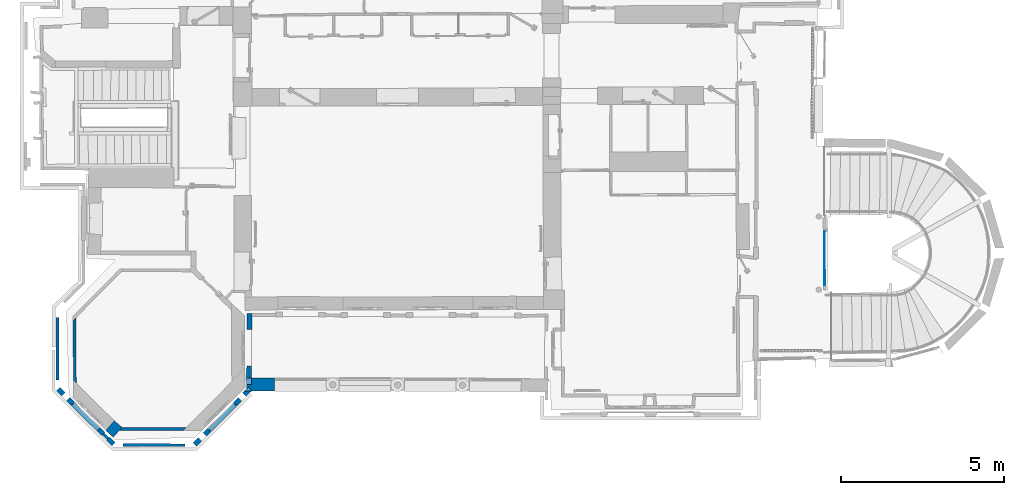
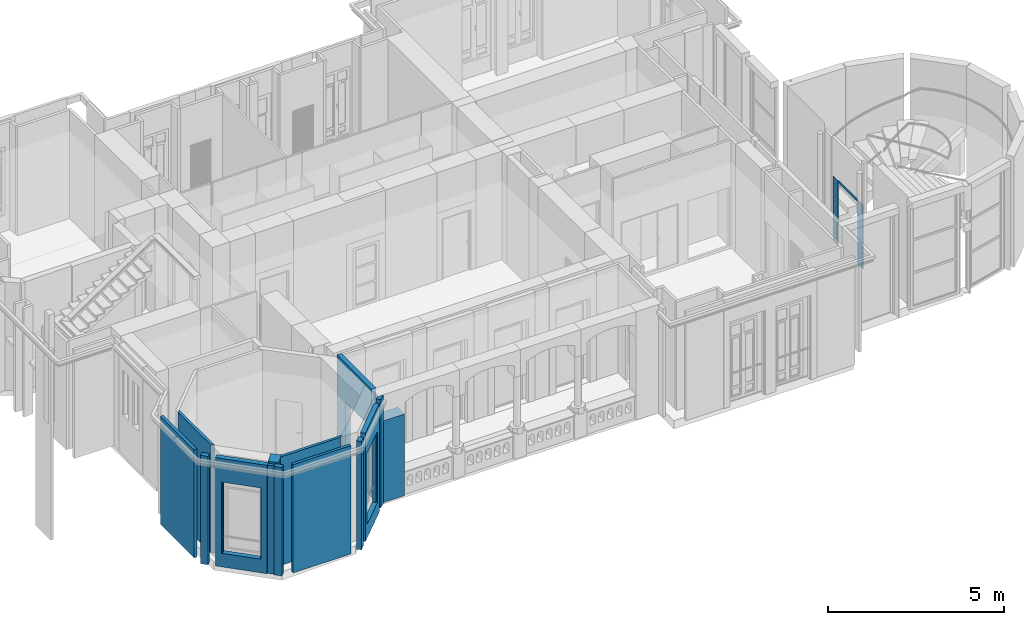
# One storey, part 2 of 66: 14 walls, 3 plates, 3 openings, 3 elements without a shape of their own.
"""IFC2X3 building model written with IfcOpenShell, lengths in centimetres."""

from ifc_helpers import new_model, entity, si_unit, converted_unit, direction, frame, origin, origin_with_axes, origin_2d_with_axis, place, context, subcontext, project, spatial, polyline, rectangle, outline, extrude, clip, bounded_halfspace, faceted_brep, shape, source, transform, mapped, material, layer, layer_set, layer_usage, type_object, element, aggregate, save


model = new_model("IFC2X3")

# Units and contexts
model_context = context("Model", 3, precision=0.0001, world=origin(), true_north=direction((0.225632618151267, 0.974212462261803, 0.0)))
body_context = subcontext(model_context, "Body", "Model", "MODEL_VIEW")
footprint_context = subcontext(model_context, "FootPrint", "Model", "MODEL_VIEW")
profile_context = subcontext(model_context, "Profile", "Model", "MODEL_VIEW")
ifc_project = project(units=[si_unit("LENGTHUNIT", "METRE", prefix="CENTI"), si_unit("AREAUNIT", "SQUARE_METRE", prefix="CENTI"), si_unit("VOLUMEUNIT", "CUBIC_METRE", prefix="CENTI"), converted_unit("PLANEANGLEUNIT", "DEGREE", entity("IfcRatioMeasure", 0.0174532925), si_unit("PLANEANGLEUNIT", "RADIAN"), dimensions=[0, 0, 0, 0, 0, 0, 0])], contexts=[model_context])

# Site, building, storey
site_placement = place(None, origin_with_axes())
site = spatial("IfcSite", under=ifc_project, at=site_placement, Name="Default Site", CompositionType="ELEMENT")
building_placement = place(site_placement, origin_with_axes())
building = spatial("IfcBuilding", under=site, at=building_placement, Name="Default Building", CompositionType="ELEMENT")
storey_placement = place(building_placement, frame((0.0, 0.0, 477.795358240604), z_axis=(0.0, 0.0, 1.0), x_axis=(1.0, 0.0, 0.0)))
storey = spatial("IfcBuildingStorey", under=building, at=storey_placement, Name="Niveau 1", CompositionType="ELEMENT", Elevation=477.795358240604)

# Assembly, plate
building_element_proxy_type = type_object("IfcBuildingElementProxyType", Name="Type Object", PredefinedType="NOTDEFINED")
assembly_1_placement = place(storey_placement, frame((1100.21750193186, -508.594125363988, 214.5), z_axis=(0.0, 0.0, 1.0), x_axis=(0.00808866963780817, -0.999967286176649, 0.0)))
assembly_1 = element("IfcElementAssembly", 1, at=assembly_1_placement, inside=storey, type_object=building_element_proxy_type, Name="Panneau 1528331", ObjectType="Precast panel", PredefinedType="USERDEFINED")
ifc_material_1 = material(Name="Aluminium mat")
shared_shape_1 = source(origin_with_axes(), body_context, "Body", "Brep", [
    faceted_brep([(107.000005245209, 10.0000001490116, -0.999999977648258), (107.000005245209, 0.0, -0.999999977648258), (0.0, 0.0, -0.999999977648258), (0.0, 10.0000001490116, -0.999999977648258), (0.0, 10.0000001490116, 0.999999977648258), (0.0, 0.0, 0.999999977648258), (107.000005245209, 0.0, 0.999999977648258), (107.000005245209, 10.0000001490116, 0.999999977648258)], [[[0, 1, 2, 3]], [[4, 5, 6, 7]], [[3, 2, 5, 4]], [[2, 1, 6, 5]], [[1, 0, 7, 6]], [[0, 3, 4, 7]]]),
])
plate_1_placement = place(assembly_1_placement, frame((107.000005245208, 1.99999997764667, 10.0000001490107), z_axis=(3.81639164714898e-17, 1.0, 0.0), x_axis=(0.0, 0.0, 1.0)))
plate_1 = element("IfcPlate", 2, at=plate_1_placement, material=ifc_material_1, Name="4294967021", context=body_context, shape_type="MappedRepresentation", body=[
    mapped(shared_shape_1, transform((-10.0000001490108, -107.000005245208, -0.999999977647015), x_axis=(0.0, 1.0, 1.73472347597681e-18), y_axis=(1.0, 0.0, 0.0), z_axis=(0.0, 1.73472347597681e-18, -1.0), scale=1.0, scale2=0.999999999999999, scale3=1.0, uniform=False)),
])
aggregate(assembly_1, [plate_1])

assembly_2_placement = place(storey_placement, frame((1101.07358005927, -616.292416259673, 0.0), z_axis=(0.0, 0.0, 1.0), x_axis=(0.00777297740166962, -0.999969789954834, 0.0)))
assembly_2 = element("IfcElementAssembly", 3, at=assembly_2_placement, inside=storey, type_object=building_element_proxy_type, Name="Panneau 1528330", ObjectType="Precast panel", PredefinedType="USERDEFINED")
shared_shape_2 = source(origin_with_axes(), body_context, "Body", "Brep", [
    faceted_brep([(31.0000002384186, 221.600008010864, -0.999999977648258), (31.0000002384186, 0.0, -0.999999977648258), (0.0, 0.0, -0.999999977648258), (1.11022302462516e-14, 221.600008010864, -0.999999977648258), (1.11022302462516e-14, 221.600008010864, 0.999999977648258), (0.0, 0.0, 0.999999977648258), (31.0000002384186, 0.0, 0.999999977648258), (31.0000002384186, 221.600008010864, 0.999999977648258), (-6.23692995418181e-22, 3.12472174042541e-38, -0.999999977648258), (-6.23692995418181e-22, 3.12472174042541e-38, 0.999999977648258)], [[[0, 1, 2, 3]], [[4, 5, 6, 7]], [[3, 8, 9, 4]], [[2, 1, 6, 5]], [[1, 0, 7, 6]], [[0, 3, 4, 7]]]),
])
plate_2_placement = place(assembly_2_placement, frame((31.0000002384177, 1.99999997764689, 221.600008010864), z_axis=(-3.55618312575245e-17, 1.0, 0.0), x_axis=(0.0, 0.0, 1.0)))
plate_2 = element("IfcPlate", 4, at=plate_2_placement, material=ifc_material_1, Name="4294967231", context=body_context, shape_type="MappedRepresentation", body=[
    mapped(shared_shape_2, transform((-221.600008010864, -31.0000002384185, -0.999999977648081), x_axis=(0.0, 1.0, 0.0), y_axis=(1.0, 0.0, 0.0), z_axis=(0.0, 0.0, -1.0), scale=1.0, scale2=1.0, scale3=1.0, uniform=False)),
])
aggregate(assembly_2, [plate_2])

assembly_3_placement = place(storey_placement, frame((1100.21750193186, -508.594125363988, 0.0), z_axis=(0.0, 0.0, 1.0), x_axis=(-0.00758160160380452, 0.999971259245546, 0.0)))
assembly_3 = element("IfcElementAssembly", 5, at=assembly_3_placement, inside=storey, type_object=building_element_proxy_type, Name="Panneau 1528329", ObjectType="Precast panel", PredefinedType="USERDEFINED")
shared_shape_3 = source(origin_with_axes(), body_context, "Body", "Brep", [
    faceted_brep([(28.0000001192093, 221.600008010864, -0.999999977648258), (28.0000001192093, 0.0, -0.999999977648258), (0.0, 0.0, -0.999999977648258), (1.35690866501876e-14, 221.600008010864, -0.999999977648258), (1.35690866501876e-14, 221.600008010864, 0.999999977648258), (0.0, 0.0, 0.999999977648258), (28.0000001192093, 0.0, 0.999999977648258), (28.0000001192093, 221.600008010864, 0.999999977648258), (-9.66980017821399e-22, 5.92104517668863e-38, -0.999999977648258), (-9.66980017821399e-22, 5.92104517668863e-38, 0.999999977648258)], [[[0, 1, 2, 3]], [[4, 5, 6, 7]], [[3, 8, 9, 4]], [[2, 1, 6, 5]], [[1, 0, 7, 6]], [[0, 3, 4, 7]]]),
])
plate_3_placement = place(assembly_3_placement, frame((28.00000011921, -2.23506049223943e-08, 221.600008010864), z_axis=(-1.30104260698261e-17, 1.0, 0.0), x_axis=(0.0, 0.0, 1.0)))
plate_3 = element("IfcPlate", 6, at=plate_3_placement, material=ifc_material_1, Name="4294967232", context=body_context, shape_type="MappedRepresentation", body=[
    mapped(shared_shape_3, transform((-221.600008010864, -28.0000001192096, -0.999999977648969), x_axis=(0.0, 1.0, 0.0), y_axis=(1.0, 0.0, 0.0), z_axis=(0.0, 0.0, -1.0), scale=1.0, scale2=1.0, scale3=1.0, uniform=False)),
])
aggregate(assembly_3, [plate_3])

# Walls
ifc_material_2 = material(Name="<aucun>")
ifc_layer_1 = layer(ifc_material_2, 9.0)
ifc_layer_set_1 = layer_set([ifc_layer_1], Name="default")
ifc_layer_usage_1 = layer_usage(ifc_layer_set_1, "AXIS2", "POSITIVE", -4.5)
wall_type_1 = type_object("IfcWallType", Name="default 90", PredefinedType="NOTDEFINED", material=ifc_layer_set_1)
wall_1_placement = place(storey_placement, frame((-861.546718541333, -1088.31271709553, 0.0128503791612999), z_axis=(0.0, 0.0, 1.0), x_axis=(-0.999998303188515, 0.00184217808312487, 0.0)))
element("IfcWallStandardCase", 7, at=wall_1_placement, inside=storey, type_object=wall_type_1, material=ifc_layer_usage_1, Name="Enveloppe 94682", context=body_context, shape_type="SweptSolid", body=[
    extrude(outline(polyline([(204.84081329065, 4.50000000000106), (8.43337507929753, 4.50000000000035), (-0.498910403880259, -4.49999999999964), (197.052636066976, -4.49999999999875), (204.84081329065, 4.50000000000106)])), frame((0.0, 0.0, 8.88178419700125e-14), z_axis=(0.0, 0.0, 1.0), x_axis=(1.0, 0.0, 0.0)), (0.0, 0.0, 1.0), 376.102165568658),
])
ifc_layer_usage_2 = layer_usage(ifc_layer_set_1, "AXIS2", "POSITIVE", -4.5)
wall_2_placement = place(storey_placement, frame((-1203.40776892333, -947.820758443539, 0.0128503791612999), z_axis=(0.0, 0.0, 1.0), x_axis=(-0.00363509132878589, 0.99999339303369, 0.0)))
element("IfcWallStandardCase", 8, at=wall_2_placement, inside=storey, type_object=wall_type_1, material=ifc_layer_usage_2, Name="Enveloppe 94750", context=body_context, shape_type="SweptSolid", body=[
    extrude(outline(polyline([(192.883117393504, 4.49999999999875), (8.99210285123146, 4.49999999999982), (0.0570623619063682, -4.49999999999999), (201.915856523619, -4.50000000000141), (192.883117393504, 4.49999999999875)])), frame((0.0, 0.0, -8.88178419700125e-14), z_axis=(0.0, 0.0, 1.0), x_axis=(1.0, 0.0, 0.0)), (0.0, 0.0, 1.0), 376.102165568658),
])
ifc_layer_2 = layer(ifc_material_2, 40.0)
ifc_layer_set_2 = layer_set([ifc_layer_2], Name="default")
ifc_layer_usage_3 = layer_usage(ifc_layer_set_2, "AXIS2", "POSITIVE", -20.0)
wall_type_2 = type_object("IfcWallType", Name="default 400", PredefinedType="NOTDEFINED", material=ifc_layer_set_2)
wall_3_placement = place(storey_placement, frame((-1071.65406992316, -1098.47942328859, 0.0128503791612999), z_axis=(0.0, 0.0, 1.0), x_axis=(-0.754427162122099, 0.656383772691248, 0.0)))
element("IfcWallStandardCase", 9, at=wall_3_placement, inside=storey, type_object=wall_type_2, material=ifc_layer_usage_3, Name="Enveloppe 94725", context=body_context, shape_type="SweptSolid", body=[
    extrude(outline(polyline([(31.147634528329, 20.0000000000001), (0.00998824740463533, 20.0000000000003), (0.00991608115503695, -19.9133814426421), (-0.0898518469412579, -20.0001837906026), (31.1476345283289, -19.9999999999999), (31.147634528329, 20.0000000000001)])), frame((0.0, 0.0, 1.77635683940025e-13), z_axis=(0.0, 0.0, 1.0), x_axis=(1.0, 0.0, 0.0)), (0.0, 0.0, 1.0), 376.102165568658),
])
ifc_layer_3 = layer(ifc_material_2, 39.8)
ifc_layer_set_3 = layer_set([ifc_layer_3], Name="default")
ifc_layer_usage_4 = layer_usage(ifc_layer_set_3, "AXIS2", "POSITIVE", -19.9)
wall_type_3 = type_object("IfcWallType", Name="default 398", PredefinedType="NOTDEFINED", material=ifc_layer_set_3)
wall_4_placement = place(storey_placement, frame((-589.689074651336, -951.075269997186, 1.99999999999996), z_axis=(0.0, 0.0, 1.0), x_axis=(-0.999999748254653, 0.000709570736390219, 0.0)))
element("IfcWallStandardCase", 10, at=wall_4_placement, inside=storey, type_object=wall_type_3, material=ifc_layer_usage_4, Name="Enveloppe 448692", context=body_context, shape_type="SweptSolid", body=[
    extrude(outline(polyline([(91.4562199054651, 19.9000000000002), (0.0, 19.9000000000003), (0.0, -19.8999999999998), (85.227612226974, -19.8999999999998), (85.3132410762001, 14.1418492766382), (91.4562199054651, 19.9000000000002)])), frame((0.0, 0.0, -1.77635683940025e-13), z_axis=(0.0, 0.0, 1.0), x_axis=(1.0, 0.0, 0.0)), (0.0, 0.0, 1.0), 283.000000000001),
])
ifc_layer_usage_5 = layer_usage(ifc_layer_set_1, "AXIS2", "POSITIVE", -4.5)
wall_type_4 = type_object("IfcWallType", Name="default 90", PredefinedType="NOTDEFINED", material=ifc_layer_set_1)
wall_5_placement = place(storey_placement, frame((-1101.30673478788, -1118.63576602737, 0.0128503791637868), z_axis=(0.0, 0.0, 1.0), x_axis=(-0.704345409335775, 0.709857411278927, 0.0)))
element("IfcWallStandardCase", 11, at=wall_5_placement, inside=storey, type_object=wall_type_4, material=ifc_layer_usage_5, Name="Enveloppe 423295", context=body_context, shape_type="SweptSolid", body=[
    extrude(outline(polyline([(20.3105668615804, 4.50000000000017), (0.253363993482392, 4.49999999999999), (0.308299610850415, -4.50000000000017), (20.3655024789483, -4.49999999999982), (20.3105668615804, 4.50000000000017)])), origin_with_axes(), (0.0, 0.0, 1.0), 376.102165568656),
])
ifc_layer_usage_6 = layer_usage(ifc_layer_set_1, "AXIS2", "POSITIVE", -4.5)
wall_6_placement = place(storey_placement, frame((-864.138233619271, -1138.40860469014, 0.0128503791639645), z_axis=(0.0, 0.0, 1.0), x_axis=(-0.999999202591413, 0.00126286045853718, 0.0)))
element("IfcWallStandardCase", 12, at=wall_6_placement, inside=storey, type_object=wall_type_4, material=ifc_layer_usage_6, Name="Enveloppe 423441", context=body_context, shape_type="SweptSolid", body=[
    extrude(rectangle(XDim=8.99997696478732, YDim=190.442956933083, at=origin_2d_with_axis()), frame((95.3810857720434, -1.77635683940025e-13, -3.01980662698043e-12), z_axis=(0.0, 0.0, 1.0), x_axis=(7.23438415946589e-05, -0.999999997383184, 0.0)), (0.0, 0.0, 1.0), 376.102165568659),
])
ifc_layer_usage_7 = layer_usage(ifc_layer_set_1, "AXIS2", "POSITIVE", -4.5)
wall_7_placement = place(storey_placement, frame((-1256.86197829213, -937.627530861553, 0.0128503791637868), z_axis=(0.0, 0.0, 1.0), x_axis=(0.00329246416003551, 0.999994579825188, 0.0)))
element("IfcWallStandardCase", 13, at=wall_7_placement, inside=storey, type_object=wall_type_4, material=ifc_layer_usage_7, Name="Enveloppe 423292", context=body_context, shape_type="SweptSolid", body=[
    extrude(rectangle(XDim=191.530662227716, YDim=9.00000000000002, at=origin_2d_with_axis()), frame((95.8783892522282, -1.59872115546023e-12, -2.93098878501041e-12), z_axis=(0.0, 0.0, 1.0), x_axis=(1.0, -1.54555188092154e-14, 0.0)), (0.0, 0.0, 1.0), 376.102165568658),
])
ifc_layer_4 = layer(ifc_material_2, 15.0)
ifc_layer_set_4 = layer_set([ifc_layer_4], Name="default")
ifc_layer_usage_8 = layer_usage(ifc_layer_set_4, "AXIS2", "POSITIVE", -7.5)
wall_type_5 = type_object("IfcWallType", Name="default 150", PredefinedType="NOTDEFINED", material=ifc_layer_set_4)
wall_8_placement = place(storey_placement, frame((-1079.69677317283, -1139.2274599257, 0.0128503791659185), z_axis=(0.0, 0.0, 1.0), x_axis=(-0.708665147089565, 0.70554497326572, 0.0)))
element("IfcWallStandardCase", 14, at=wall_8_placement, inside=storey, type_object=wall_type_5, material=ifc_layer_usage_8, Name="Enveloppe 425741", context=body_context, shape_type="SweptSolid", body=[
    extrude(rectangle(XDim=15.0, YDim=23.6391104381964, at=origin_2d_with_axis()), frame((18.3038640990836, 0.0, -2.1316282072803e-12), z_axis=(0.0, 0.0, 1.0), x_axis=(2.50910403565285e-14, -1.0, 0.0)), (0.0, 0.0, 1.0), 376.102165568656),
])
ifc_layer_usage_9 = layer_usage(ifc_layer_set_4, "AXIS2", "POSITIVE", -7.5)
wall_9_placement = place(storey_placement, frame((-839.385649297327, -1140.28779109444, 0.0128503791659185), z_axis=(0.0, 0.0, 1.0), x_axis=(0.708650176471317, 0.705560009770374, 0.0)))
element("IfcWallStandardCase", 15, at=wall_9_placement, inside=storey, type_object=wall_type_5, material=ifc_layer_usage_9, Name="Enveloppe 425744", context=body_context, shape_type="SweptSolid", body=[
    extrude(rectangle(XDim=22.1695748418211, YDim=15.0000000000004, at=origin_2d_with_axis()), frame((17.6774124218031, -8.88178419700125e-14, 1.77635683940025e-13), z_axis=(0.0, 0.0, 1.0), x_axis=(1.0, -5.55111512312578e-15, 0.0)), (0.0, 0.0, 1.0), 376.102165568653),
])
ifc_layer_usage_10 = layer_usage(ifc_layer_set_4, "AXIS2", "POSITIVE", -7.5)
wall_10_placement = place(storey_placement, frame((-1238.27073832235, -981.8114008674, 0.0128503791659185), z_axis=(0.0, 0.0, 1.0), x_axis=(-0.696146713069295, 0.717899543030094, 0.0)))
element("IfcWallStandardCase", 16, at=wall_10_placement, inside=storey, type_object=wall_type_5, material=ifc_layer_usage_10, Name="Enveloppe 425630", context=body_context, shape_type="SweptSolid", body=[
    extrude(rectangle(XDim=15.0, YDim=23.2597526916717, at=origin_2d_with_axis()), frame((11.6298763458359, 0.0, -2.66453525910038e-13), z_axis=(0.0, 0.0, 1.0), x_axis=(0.0, -1.0, 0.0)), (0.0, 0.0, 1.0), 376.102165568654),
])

# Wall, opening
ifc_layer_usage_11 = layer_usage(ifc_layer_set_4, "AXIS2", "POSITIVE", -7.5)
wall_11_placement = place(storey_placement, frame((-1115.25776639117, -1103.82303780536, 0.0128503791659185), z_axis=(0.0, 0.0, 1.0), x_axis=(-0.708665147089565, 0.70554497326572, 0.0)))
wall_11 = element("IfcWallStandardCase", 17, at=wall_11_placement, inside=storey, type_object=wall_type_5, material=ifc_layer_usage_11, Name="Enveloppe 425655", context=body_context, shape_type="Clipping", body=[
    clip(extrude(outline(polyline([(152.554325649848, 7.50000000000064), (-8.88178419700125e-14, 7.49999999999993), (-8.88178419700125e-14, -7.49999999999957), (152.554325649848, -7.49999999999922), (152.554325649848, -3.88624696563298), (152.702530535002, -3.88380611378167), (152.554325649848, 5.11497354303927), (152.554325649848, 7.50000000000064)])), frame((0.0, 0.0, -2.1316282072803e-12), z_axis=(0.0, 0.0, 1.0), x_axis=(1.0, 0.0, 0.0)), (0.0, 0.0, 1.0), 376.102165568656), bounded_halfspace(frame((152.554325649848, -3.88624696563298, 371.102165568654), z_axis=(0.0, 0.0, 1.0), x_axis=(-4.38538094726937e-15, 1.0, 0.0)), True, frame((152.554325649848, -3.88624696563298, 371.102165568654), z_axis=(0.0, 0.0, 1.0), x_axis=(1.0, 0.0, 0.0)), polyline([(0.0, 3.5527136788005e-13), (0.0, 9.00122050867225), (0.14820488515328, 0.00244085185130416), (0.0, 3.5527136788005e-13)]))),
])
opening_1_placement = place(wall_11_placement, frame((18.0978515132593, 0.0, 47.1963066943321), z_axis=(0.0, 0.0, 1.0), x_axis=(1.0, 2.60902410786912e-15, 0.0)))
cartesian_point_1 = entity("IfcCartesianPoint", [0.0, 0.0, 246.995846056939])
cartesian_point_2 = entity("IfcCartesianPoint", [115.862496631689, 7.49999999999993])
element("IfcOpeningElement", 18, at=opening_1_placement, cuts=wall_11, Name="Baie 427162", ObjectType="Opening", shapes=[
    shape(body_context, "Body", "Brep", [faceted_brep([(-2.43375130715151e-05, 27.499985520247, 246.99584517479), (115.862483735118, 27.4999863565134, 246.99584517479), (115.862483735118, 27.4999863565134, 1.46389009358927e-05), (-2.43375130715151e-05, 27.499985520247, 1.46389009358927e-05), (2.99999850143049, -27.5000426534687, 1.46389009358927e-05), (112.862534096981, -27.5000418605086, 1.46389009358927e-05), (112.862534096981, -27.5000418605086, 246.99584517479), (2.99999850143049, -27.5000426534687, 246.99584517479), (2.99999850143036, -27.5000426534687, 246.99584517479), (2.99999827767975, 3.50001764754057, 246.99584517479), (2.99999827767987, 3.50001764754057, 1.46389009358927e-05), (3.00001476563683, 3.50001764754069, 1.46389009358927e-05), (3.00001476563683, 3.50001764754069, 246.99584517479), (-3.89076971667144e-05, 3.50001762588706, 246.99584517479), (-3.89076971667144e-05, 3.50001762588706, 1.46389009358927e-05), (-3.89076972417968e-05, 3.50002802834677, 1.46389009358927e-05), (-3.89076972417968e-05, 3.50002802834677, 246.99584517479), (-3.90809228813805e-05, 27.4999855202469, 246.99584517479), (-3.90809228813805e-05, 27.4999855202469, 1.46389009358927e-05), (112.862534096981, -27.5000032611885, 1.46389009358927e-05), (115.862483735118, 27.5000044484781, 1.46389009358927e-05), (115.862536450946, 3.49997937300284, 1.46389009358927e-05), (112.862482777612, 3.49998975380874, 1.46389009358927e-05), (112.862534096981, -27.5000032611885, 246.99584517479), (112.862533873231, 3.49998975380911, 1.46389009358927e-05), (112.862533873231, 3.49998975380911, 246.99584517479), (112.862482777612, 3.49998975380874, 246.99584517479), (115.862536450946, 3.49998977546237, 1.46389009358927e-05), (115.862536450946, 3.49998977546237, 246.99584517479), (115.862536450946, 3.49997937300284, 246.99584517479), (115.86253627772, 27.5000044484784, 1.46389009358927e-05), (115.86253627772, 27.5000044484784, 246.99584517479), (115.862483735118, 27.5000044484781, 246.99584517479)], [[[0, 1, 2, 3]], [[4, 5, 6, 7]], [[4, 8, 9, 10]], [[11, 12, 13, 14]], [[15, 16, 17, 18]], [[19, 4, 11, 15, 3, 20, 21, 22]], [[23, 19, 24, 25]], [[26, 22, 27, 28]], [[29, 21, 30, 31]], [[26, 29, 32, 0, 16, 12, 7, 23]]])]),
    shape(profile_context, "Profile", "GeometricCurveSet", [entity("IfcGeometricCurveSet", [entity("IfcPolyline", [cartesian_point_1, entity("IfcCartesianPoint", [0.0, 0.0, 0.0]), entity("IfcCartesianPoint", [115.862496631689, 0.0, 0.0]), entity("IfcCartesianPoint", [115.86249663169, 0.0, 246.995846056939]), cartesian_point_1])])]),
    shape(footprint_context, "FootPrint", "GeometricCurveSet", [entity("IfcGeometricCurveSet", [entity("IfcPolyline", [cartesian_point_2, entity("IfcCartesianPoint", [0.0, 7.49999999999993]), entity("IfcCartesianPoint", [0.0, -7.49999999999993]), entity("IfcCartesianPoint", [115.862496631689, -7.49999999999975]), cartesian_point_2])])]),
])

ifc_layer_usage_12 = layer_usage(ifc_layer_set_4, "AXIS2", "POSITIVE", -7.5)
wall_12_placement = place(storey_placement, frame((-804.512354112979, -1105.56656571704, 0.0128503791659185), z_axis=(0.0, 0.0, 1.0), x_axis=(0.708650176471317, 0.705560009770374, 0.0)))
wall_12 = element("IfcWallStandardCase", 19, at=wall_12_placement, inside=storey, type_object=wall_type_5, material=ifc_layer_usage_12, Name="Enveloppe 425790", context=body_context, shape_type="SweptSolid", body=[
    extrude(rectangle(XDim=153.273856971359, YDim=15.0, at=origin_2d_with_axis()), frame((76.6369284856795, -3.5527136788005e-13, 0.0), z_axis=(0.0, 0.0, 1.0), x_axis=(1.0, -5.38458166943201e-15, 0.0)), (0.0, 0.0, 1.0), 376.102165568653),
])
opening_2_placement = place(wall_12_placement, frame((18.2664635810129, -1.13686837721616e-13, 46.6567603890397), z_axis=(0.0, 0.0, 1.0), x_axis=(-1.0, 5.38458166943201e-15, 0.0)))
cartesian_point_3 = entity("IfcCartesianPoint", [-1.77635683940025e-13, 8.88178419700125e-14, 246.995846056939])
cartesian_point_4 = entity("IfcCartesianPoint", [-116.062988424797, -7.50000000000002])
element("IfcOpeningElement", 20, at=opening_2_placement, cuts=wall_12, Name="Baie 427163", ObjectType="Opening", shapes=[
    shape(body_context, "Body", "Brep", [faceted_brep([(-3.00001427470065, -27.4999943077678, 246.995850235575), (-113.0630292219, -27.4999961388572, 246.995850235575), (-113.0630292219, -27.4999961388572, 1.9699686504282e-05), (-3.00001427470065, -27.4999943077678, 1.9699686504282e-05), (2.90312897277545e-05, 27.5000351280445, 1.9699686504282e-05), (-116.062991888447, 27.5000331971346, 1.9699686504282e-05), (-116.062991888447, 27.5000331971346, 246.995850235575), (2.90312897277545e-05, 27.5000351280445, 246.995850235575), (-3.00001427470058, -27.4999943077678, 1.9699686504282e-05), (-3.00001479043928, 3.49999722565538, 1.9699686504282e-05), (-3.00001479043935, 3.49999722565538, 246.995850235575), (-2.99997953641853, 3.49999722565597, 246.995850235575), (-2.99997953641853, 3.49999722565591, 1.9699686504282e-05), (6.55431341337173e-06, 3.49999727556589, 1.9699686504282e-05), (6.55431341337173e-06, 3.49999727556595, 246.995850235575), (6.55431318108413e-06, 3.50001123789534, 246.995850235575), (6.55431336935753e-06, 3.50001123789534, 1.9699686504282e-05), (6.15503128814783e-06, 27.5000351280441, 1.9699686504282e-05), (6.15503109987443e-06, 27.5000351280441, 246.995850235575), (-113.0630292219, -27.5000175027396, 1.9699686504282e-05), (-113.062994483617, 3.49997403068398, 1.9699686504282e-05), (-116.063014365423, 3.49999366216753, 1.9699686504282e-05), (-116.062991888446, 27.5000175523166, 1.9699686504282e-05), (6.55431318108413e-06, 3.50001123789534, 1.9699686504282e-05), (-2.99997953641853, 3.49999722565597, 1.9699686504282e-05), (-113.0630292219, -27.5000175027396, 246.995850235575), (-113.063029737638, 3.4999740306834, 246.995850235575), (-113.063029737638, 3.4999740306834, 1.9699686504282e-05), (-113.062994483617, 3.49997403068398, 246.995850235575), (-116.063014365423, 3.49997398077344, 246.995850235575), (-116.063014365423, 3.49997398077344, 1.9699686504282e-05), (-116.063014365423, 3.49999366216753, 246.995850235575), (-116.063014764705, 27.5000175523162, 246.995850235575), (-116.063014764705, 27.5000175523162, 1.9699686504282e-05), (-116.062991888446, 27.5000175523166, 246.995850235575)], [[[0, 1, 2, 3]], [[4, 5, 6, 7]], [[0, 8, 9, 10]], [[11, 12, 13, 14]], [[15, 16, 17, 18]], [[3, 19, 20, 21, 22, 4, 23, 24]], [[19, 25, 26, 27]], [[20, 28, 29, 30]], [[21, 31, 32, 33]], [[11, 15, 7, 34, 31, 28, 25, 0]]])]),
    shape(profile_context, "Profile", "GeometricCurveSet", [entity("IfcGeometricCurveSet", [entity("IfcPolyline", [cartesian_point_3, entity("IfcCartesianPoint", [0.0, 0.0, 0.0]), entity("IfcCartesianPoint", [-116.062988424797, 0.0, 0.0]), entity("IfcCartesianPoint", [-116.062988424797, 0.0, 246.995846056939]), cartesian_point_3])])]),
    shape(footprint_context, "FootPrint", "GeometricCurveSet", [entity("IfcGeometricCurveSet", [entity("IfcPolyline", [cartesian_point_4, entity("IfcCartesianPoint", [1.77635683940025e-13, -7.50000000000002]), entity("IfcCartesianPoint", [0.0, 7.50000000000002]), entity("IfcCartesianPoint", [-116.062988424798, 7.50000000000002]), cartesian_point_4])])]),
])

ifc_layer_usage_13 = layer_usage(ifc_layer_set_4, "AXIS2", "POSITIVE", -7.5)
wall_13_placement = place(storey_placement, frame((-667.466700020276, -951.020081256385, 0.0128503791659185), z_axis=(0.0, 0.0, 1.0), x_axis=(0.00322495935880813, 0.999994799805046, 0.0)))
wall_13 = element("IfcWallStandardCase", 21, at=wall_13_placement, inside=storey, type_object=wall_type_5, material=ifc_layer_usage_13, Name="Enveloppe 440399", context=body_context, shape_type="Clipping", body=[
    clip(extrude(outline(polyline([(0.0, 7.49999999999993), (0.0, -7.50000000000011), (217.860350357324, -7.50000000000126), (217.789346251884, 7.49999999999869), (0.0, 7.49999999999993)])), frame((0.0, 0.0, -1.95399252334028e-12), z_axis=(0.0, 0.0, 1.0), x_axis=(1.0, 0.0, 0.0)), (0.0, 0.0, 1.0), 376.102165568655), bounded_halfspace(frame((0.0, -7.50000000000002, 1.98714962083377), z_axis=(0.0, 0.0, -1.0), x_axis=(1.0, -5.50254286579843e-15, 0.0)), True, frame((0.0, -7.50000000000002, 1.98714962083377), z_axis=(0.0, 0.0, 1.0), x_axis=(1.0, 0.0, 0.0)), polyline([(0.0, 0.0), (19.9189284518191, -8.88178419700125e-14), (19.8811974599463, 15.0000000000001), (0.0, 15.0), (0.0, 0.0)]))),
])
opening_3_placement = place(wall_13_placement, frame((56.4450083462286, -4.54747350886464e-13, -8.97060203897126e-14), z_axis=(0.0, 0.0, 1.0), x_axis=(-1.0, 5.61226412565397e-15, 0.0)))
cartesian_point_5 = entity("IfcCartesianPoint", [0.0, 0.0, 240.0])
cartesian_point_6 = entity("IfcCartesianPoint", [-111.474971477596, -7.50000000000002])
element("IfcOpeningElement", 22, at=opening_3_placement, cuts=wall_13, Name="Baie 442187", ObjectType="Opening", shapes=[
    shape(body_context, "Body", "SweptSolid", [extrude(outline(polyline([(0.0, 240.0), (0.0, -8.88178419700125e-14), (111.474971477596, -8.88178419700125e-14), (111.474971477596, 240.0), (0.0, 240.0)])), frame((0.0, -17.5, 0.0), z_axis=(0.0, 1.0, 0.0), x_axis=(-1.0, 0.0, 0.0)), (0.0, 0.0, 1.0), 35.0)]),
    shape(profile_context, "Profile", "GeometricCurveSet", [entity("IfcGeometricCurveSet", [entity("IfcPolyline", [cartesian_point_5, entity("IfcCartesianPoint", [0.0, 0.0, -8.88178419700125e-14]), entity("IfcCartesianPoint", [-111.474971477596, 0.0, -8.88178419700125e-14]), entity("IfcCartesianPoint", [-111.474971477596, 0.0, 240.0]), cartesian_point_5])])]),
    shape(footprint_context, "FootPrint", "GeometricCurveSet", [entity("IfcGeometricCurveSet", [entity("IfcPolyline", [cartesian_point_6, entity("IfcCartesianPoint", [0.0, -7.50000000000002]), entity("IfcCartesianPoint", [0.0, 7.50000000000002]), entity("IfcCartesianPoint", [-111.474971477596, 7.50000000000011]), cartesian_point_6])])]),
])

# Wall
ifc_layer_usage_14 = layer_usage(ifc_layer_set_4, "AXIS2", "POSITIVE", -7.5)
wall_14_placement = place(storey_placement, frame((-682.608617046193, -982.539793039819, 0.0128503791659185), z_axis=(0.0, 0.0, 1.0), x_axis=(0.730075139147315, 0.683366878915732, 0.0)))
element("IfcWallStandardCase", 23, at=wall_14_placement, inside=storey, type_object=wall_type_5, material=ifc_layer_usage_14, Name="Enveloppe 440747", context=body_context, shape_type="Clipping", body=[
    clip(clip(clip(clip(extrude(outline(polyline([(0.0, 7.50000000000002), (0.0, -7.50000000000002), (25.0083018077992, -7.49933981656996), (24.8541877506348, -7.35508556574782), (24.8536721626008, 7.5000000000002), (0.0, 7.50000000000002)])), frame((0.0, 0.0, -2.66453525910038e-13), z_axis=(0.0, 0.0, 1.0), x_axis=(1.0, 0.0, 0.0)), (0.0, 0.0, 1.0), 376.102165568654), bounded_halfspace(frame((24.8536721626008, -7.35563639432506, 1.98714962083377), z_axis=(0.0, 0.0, 1.0), x_axis=(0.729590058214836, -0.683884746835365, 0.0)), True, frame((24.8536721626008, -7.35563639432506, 1.98714962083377), z_axis=(0.0, 0.0, 1.0), x_axis=(1.0, 0.0, 0.0)), polyline([(0.0, -0.14436360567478), (0.0, 0.0), (0.154011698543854, -0.144363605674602), (0.0, -0.14436360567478)]))), bounded_halfspace(frame((9.92612212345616, 6.63677436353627, 1.98714962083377), z_axis=(0.0, 0.0, -1.0), x_axis=(0.9995242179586, 0.0308437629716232, 0.0)), True, frame((9.92612212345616, 6.63677436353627, 1.98714962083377), z_axis=(0.0, 0.0, 1.0), x_axis=(1.0, 0.0, 0.0)), polyline([(-0.920916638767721, 0.863225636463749), (0.0, 8.88178419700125e-14), (7.41511574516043, 0.228818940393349), (7.9680392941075, 0.863225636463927), (-0.920916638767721, 0.863225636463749)]))), bounded_halfspace(frame((24.8536721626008, -4.76526987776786, 1.98714962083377), z_axis=(0.0, 0.0, -1.0), x_axis=(-0.999476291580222, -0.0323595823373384, 0.0)), True, frame((24.8536721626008, -4.76526987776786, 1.98714962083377), z_axis=(0.0, 0.0, 1.0), x_axis=(1.0, 0.0, 0.0)), polyline([(-2.67122078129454, -0.0864848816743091), (0.0, -2.5903665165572), (0.0, 8.88178419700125e-14), (-2.67122078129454, -0.0864848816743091)]))), bounded_halfspace(frame((17.8941614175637, 7.50000000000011, 1.98714962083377), z_axis=(0.0, 0.0, -1.0), x_axis=(-0.657034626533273, -0.753860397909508, 0.0)), True, frame((17.8941614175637, 7.50000000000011, 1.98714962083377), z_axis=(0.0, 0.0, 1.0), x_axis=(1.0, 0.0, 0.0)), polyline([(-7.9680392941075, -0.863225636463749), (4.28828996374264, -12.3517547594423), (6.95951074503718, -12.2652698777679), (6.95951074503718, 1.77635683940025e-13), (0.0, 8.88178419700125e-14), (-0.552923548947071, -0.634406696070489), (-7.9680392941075, -0.863225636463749)]))),
])

save(model, "model.ifc")
